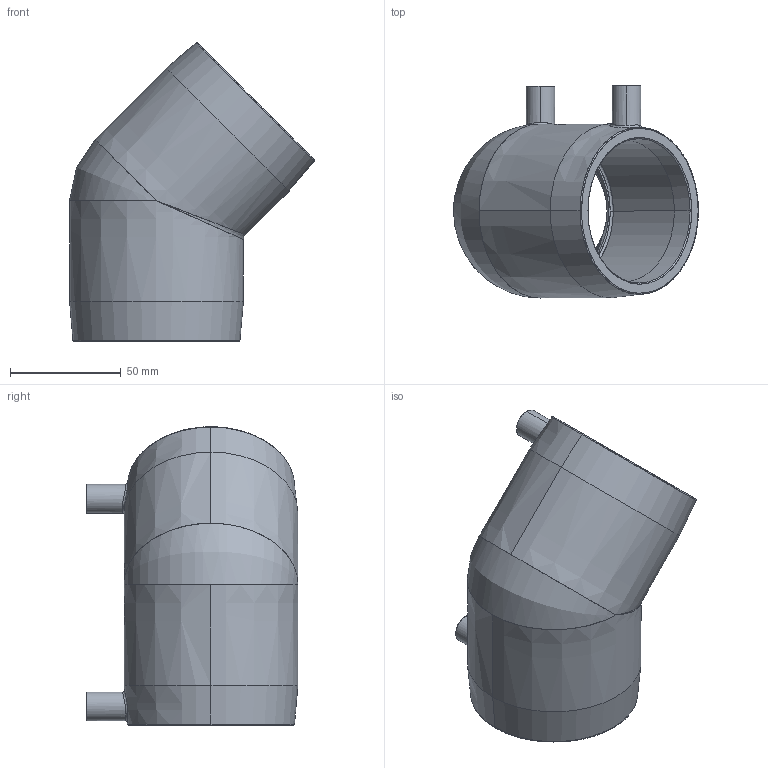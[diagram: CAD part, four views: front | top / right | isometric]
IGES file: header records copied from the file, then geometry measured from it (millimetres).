
Start section: SolidWorks IGES file using analytic representation for surfaces
Global section: file name: G:\Group\Marketing\Public\CAD Offering - Website\6. 45deg elbow\EBKHA63X45.IGS; native system: SolidWorks 2017; preprocessor: SolidWorks 2017; author: hwegrzynska; date: 180920.133744; units: millimetre
Bounding box: 110.58 x 95.65 x 134.78 mm (x, y, z)
Surface area: 61714.9 mm2 (no closed solid volume)
Topology: 0 solids, 0 shells, 96 faces, 1567 edges, 1562 vertices
Faces by surface type: revolution 56, bspline 40
